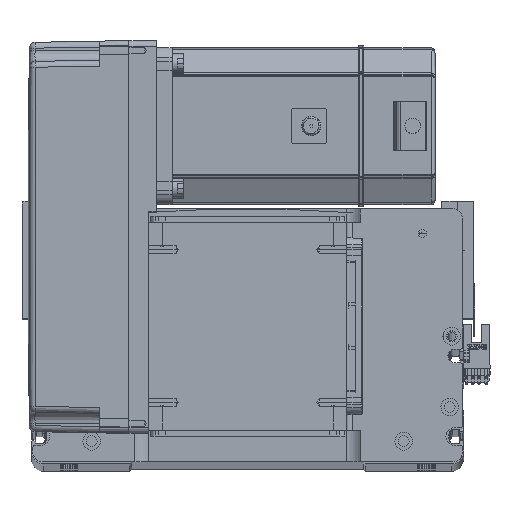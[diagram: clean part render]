
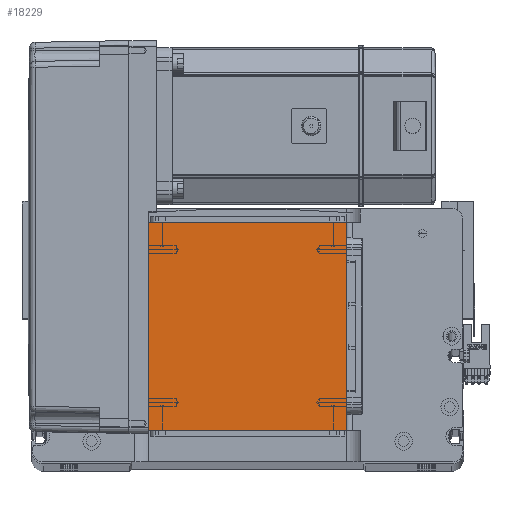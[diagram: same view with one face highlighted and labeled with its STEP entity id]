
A CAD part, top view. The second image highlights one B-rep face of the part: STEP entity #18229.
In plain terms, the highlighted planar face has unit normal (0, 0, 1).
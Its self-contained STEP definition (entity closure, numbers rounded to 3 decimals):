
#1000 = ORIENTED_EDGE ( 'NONE', *, *, #13256, .T. ) ;
#1170 = CARTESIAN_POINT ( 'NONE',  ( 50.5, 122., 115. ) ) ;
#1531 = DIRECTION ( 'NONE',  ( 1., 0., 0. ) ) ;
#4441 = VECTOR ( 'NONE', #24896, 1000. ) ;
#5862 = DIRECTION ( 'NONE',  ( 0., 0., 1. ) ) ;
#6319 = CARTESIAN_POINT ( 'NONE',  ( 50.5, 122., 115. ) ) ;
#6427 = ORIENTED_EDGE ( 'NONE', *, *, #44283, .T. ) ;
#6868 = VECTOR ( 'NONE', #32023, 1000. ) ;
#7128 = LINE ( 'NONE', #50868, #4441 ) ;
#8445 = DIRECTION ( 'NONE',  ( 1., 0., 0. ) ) ;
#9863 = CARTESIAN_POINT ( 'NONE',  ( -50.5, 122., 115. ) ) ;
#10118 = FACE_OUTER_BOUND ( 'NONE', #40702, .T. ) ;
#13056 = PLANE ( 'NONE',  #25810 ) ;
#13256 = EDGE_CURVE ( 'NONE', #21858, #20967, #14274, .T. ) ;
#14274 = LINE ( 'NONE', #9863, #6868 ) ;
#14732 = EDGE_CURVE ( 'NONE', #55062, #17613, #49510, .T. ) ;
#16280 = CARTESIAN_POINT ( 'NONE',  ( -50.5, 122., 115. ) ) ;
#16795 = VECTOR ( 'NONE', #35452, 1000. ) ;
#17613 = VERTEX_POINT ( 'NONE', #36051 ) ;
#18229 = ADVANCED_FACE ( 'NONE', ( #10118 ), #13056, .T. ) ;
#20967 = VERTEX_POINT ( 'NONE', #16280 ) ;
#21858 = VERTEX_POINT ( 'NONE', #6319 ) ;
#24896 = DIRECTION ( 'NONE',  ( 0., -1., 0. ) ) ;
#25810 = AXIS2_PLACEMENT_3D ( 'NONE', #53228, #5862, #1531 ) ;
#28608 = ORIENTED_EDGE ( 'NONE', *, *, #14732, .T. ) ;
#29304 = CARTESIAN_POINT ( 'NONE',  ( -50.5, 16., 115. ) ) ;
#32023 = DIRECTION ( 'NONE',  ( -1., 0., 0. ) ) ;
#35452 = DIRECTION ( 'NONE',  ( 0., 1., 0. ) ) ;
#36051 = CARTESIAN_POINT ( 'NONE',  ( 50.5, 16., 115. ) ) ;
#37999 = VECTOR ( 'NONE', #8445, 1000. ) ;
#40702 = EDGE_LOOP ( 'NONE', ( #6427, #28608, #47680, #1000 ) ) ;
#44283 = EDGE_CURVE ( 'NONE', #20967, #55062, #7128, .T. ) ;
#44639 = LINE ( 'NONE', #1170, #16795 ) ;
#47680 = ORIENTED_EDGE ( 'NONE', *, *, #52604, .T. ) ;
#49510 = LINE ( 'NONE', #29304, #37999 ) ;
#50868 = CARTESIAN_POINT ( 'NONE',  ( -50.5, 122., 115. ) ) ;
#52604 = EDGE_CURVE ( 'NONE', #17613, #21858, #44639, .T. ) ;
#53228 = CARTESIAN_POINT ( 'NONE',  ( 0., 0., 115. ) ) ;
#54773 = CARTESIAN_POINT ( 'NONE',  ( -50.5, 16., 115. ) ) ;
#55062 = VERTEX_POINT ( 'NONE', #54773 ) ;
